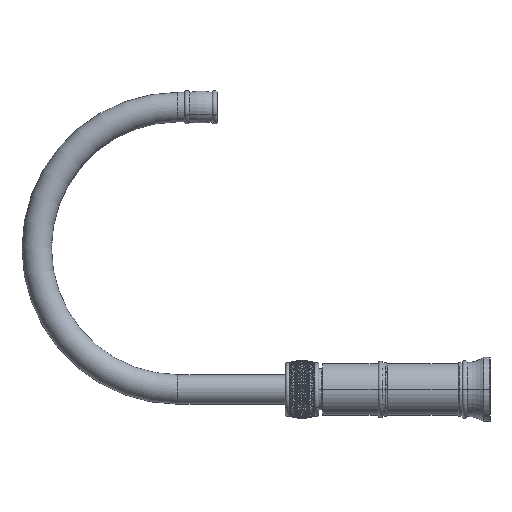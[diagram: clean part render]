
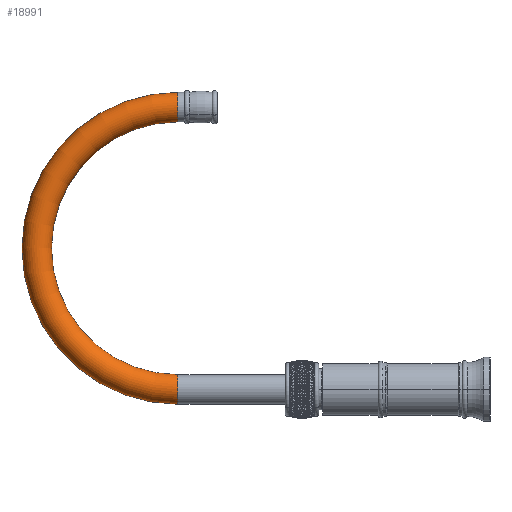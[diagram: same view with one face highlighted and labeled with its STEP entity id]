
A CAD part, left-side view. The second image highlights one B-rep face of the part: STEP entity #18991.
In plain terms, the highlighted toroidal (fillet/blend) face has major radius 110 mm and minor radius 11.5 mm.
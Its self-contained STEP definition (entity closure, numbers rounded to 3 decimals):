
#1030 = VERTEX_POINT ( 'NONE', #28638 ) ;
#1521 = VERTEX_POINT ( 'NONE', #52104 ) ;
#2339 = AXIS2_PLACEMENT_3D ( 'NONE', #62159, #62534, #18219 ) ;
#3556 = ORIENTED_EDGE ( 'NONE', *, *, #35809, .F. ) ;
#4914 = ORIENTED_EDGE ( 'NONE', *, *, #113631, .F. ) ;
#5164 = EDGE_LOOP ( 'NONE', ( #4914, #6213, #66555, #3556 ) ) ;
#6213 = ORIENTED_EDGE ( 'NONE', *, *, #85540, .T. ) ;
#10214 = DIRECTION ( 'NONE',  ( 0., 0., -1. ) ) ;
#12197 = DIRECTION ( 'NONE',  ( 0., 0., -1. ) ) ;
#16742 = CIRCLE ( 'NONE', #40294, 11.5 ) ;
#18219 = DIRECTION ( 'NONE',  ( 0., 0., -1. ) ) ;
#18991 = ADVANCED_FACE ( 'NONE', ( #60233 ), #93544, .T. ) ;
#27731 = CARTESIAN_POINT ( 'NONE',  ( 0., 243.2, 0. ) ) ;
#28638 = CARTESIAN_POINT ( 'NONE',  ( 0., 243.2, 11.5 ) ) ;
#35809 = EDGE_CURVE ( 'NONE', #61956, #48577, #62045, .T. ) ;
#39335 = AXIS2_PLACEMENT_3D ( 'NONE', #90565, #82384, #10214 ) ;
#40294 = AXIS2_PLACEMENT_3D ( 'NONE', #27731, #108401, #63064 ) ;
#42830 = DIRECTION ( 'NONE',  ( 0., 0., -1. ) ) ;
#48577 = VERTEX_POINT ( 'NONE', #60804 ) ;
#52030 = CIRCLE ( 'NONE', #2339, 98.5 ) ;
#52104 = CARTESIAN_POINT ( 'NONE',  ( 0., 243.2, -11.5 ) ) ;
#53007 = AXIS2_PLACEMENT_3D ( 'NONE', #73594, #99974, #12197 ) ;
#60233 = FACE_OUTER_BOUND ( 'NONE', #5164, .T. ) ;
#60804 = CARTESIAN_POINT ( 'NONE',  ( 0., 243.2, 208.5 ) ) ;
#61956 = VERTEX_POINT ( 'NONE', #69543 ) ;
#62045 = CIRCLE ( 'NONE', #53007, 11.5 ) ;
#62159 = CARTESIAN_POINT ( 'NONE',  ( 0., 243.2, 110. ) ) ;
#62534 = DIRECTION ( 'NONE',  ( 1., 0., 0. ) ) ;
#63064 = DIRECTION ( 'NONE',  ( 0., 0., 1. ) ) ;
#66555 = ORIENTED_EDGE ( 'NONE', *, *, #98479, .T. ) ;
#69543 = CARTESIAN_POINT ( 'NONE',  ( 0., 243.2, 231.5 ) ) ;
#73594 = CARTESIAN_POINT ( 'NONE',  ( 0., 243.2, 220. ) ) ;
#78168 = DIRECTION ( 'NONE',  ( 1., 0., 0. ) ) ;
#82384 = DIRECTION ( 'NONE',  ( 1., 0., 0. ) ) ;
#85540 = EDGE_CURVE ( 'NONE', #1521, #1030, #16742, .T. ) ;
#85947 = CARTESIAN_POINT ( 'NONE',  ( 0., 243.2, 110. ) ) ;
#90565 = CARTESIAN_POINT ( 'NONE',  ( 0., 243.2, 110. ) ) ;
#93544 = TOROIDAL_SURFACE ( 'NONE', #110896, 110., 11.5 ) ;
#98479 = EDGE_CURVE ( 'NONE', #1030, #48577, #52030, .T. ) ;
#99974 = DIRECTION ( 'NONE',  ( 0., -1., 0. ) ) ;
#108401 = DIRECTION ( 'NONE',  ( 0., 1., 0. ) ) ;
#110896 = AXIS2_PLACEMENT_3D ( 'NONE', #85947, #78168, #42830 ) ;
#113224 = CIRCLE ( 'NONE', #39335, 121.5 ) ;
#113631 = EDGE_CURVE ( 'NONE', #1521, #61956, #113224, .T. ) ;
